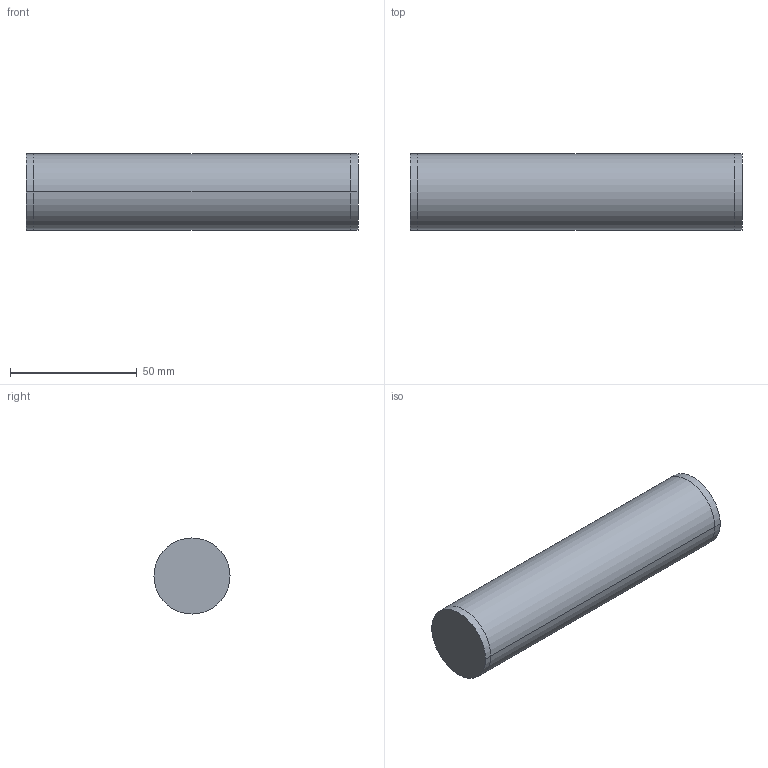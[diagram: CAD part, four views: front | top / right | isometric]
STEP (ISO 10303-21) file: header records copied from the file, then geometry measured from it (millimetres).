
FILE_DESCRIPTION(('CATIA V5 STEP Exchange'),'2;1');
FILE_NAME('C:\Users\Administrator\Desktop\φ30储气罐.stp','2021-11-23T03:06:38+00:00',('none'),('none'),'CATIA Version 5 Release 20 GA (IN-10)','CATIA V5 STEP AP214','none');
FILE_SCHEMA(('AUTOMOTIVE_DESIGN { 1 0 10303 214 1 1 1 1 }'));
Length unit declared in the file: millimetre
Products named in the file (4): 产品1; 30; 30-2; 125
Assembly tree (3 placements, depth 2):
  产品1
    30
    30-2
    125
Bounding box: 131 x 30 x 30 mm (x, y, z)
Volume: 36009.5 mm3; surface area: 25119.7 mm2
Topology: 3 solids, 3 shells, 16 faces, 30 edges, 20 vertices
Faces by surface type: cylinder 10, plane 6
Entity records: 471 total; most frequent: CARTESIAN_POINT 67, DIRECTION 64, ORIENTED_EDGE 60, AXIS2_PLACEMENT_3D 37, EDGE_CURVE 30, CIRCLE 20, EDGE_LOOP 20, VERTEX_POINT 20
